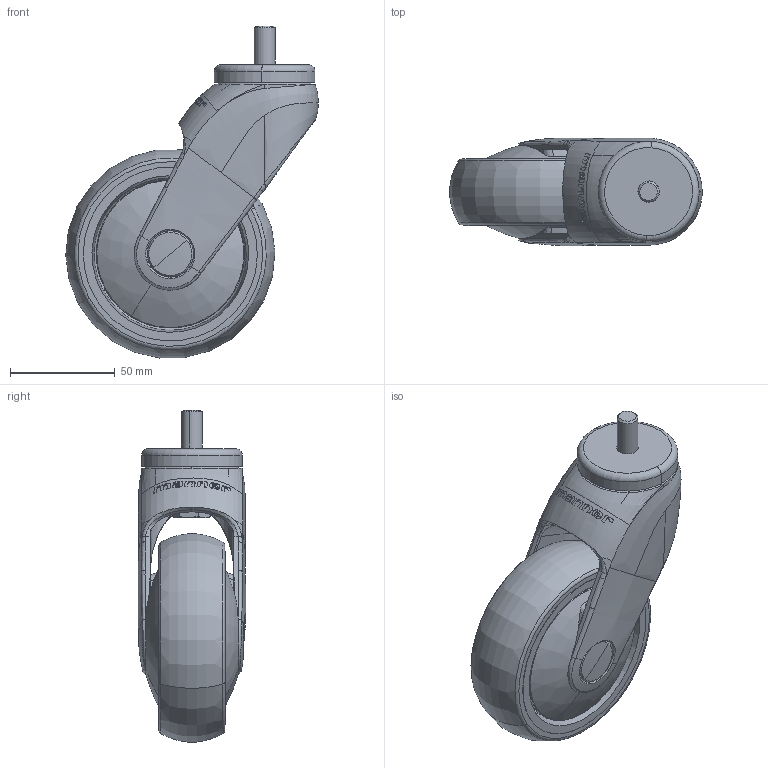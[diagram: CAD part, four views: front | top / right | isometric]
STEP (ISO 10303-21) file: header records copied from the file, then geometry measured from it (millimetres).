
FILE_DESCRIPTION (( 'STEP AP203' ), '1' );
FILE_NAME ('301747.STEP', '2010-07-15T07:49:54', ( ' ' ), ( ' ' ), 'SwSTEP 2.0', 'SolidWorks 2007', '' );
FILE_SCHEMA (( 'CONFIG_CONTROL_DESIGN' ));
Length unit declared in the file: millimetre
Products named in the file (1): 301747
Bounding box: 120.48 x 51.24 x 158.42 mm (x, y, z)
Volume: 231093.6 mm3; surface area: 121665.5 mm2
Topology: 21 solids, 21 shells, 760 faces, 2549 edges, 1839 vertices
Faces by surface type: plane 201, bspline 182, cylinder 178, cone 111, torus 68, sphere 20
Entity records: 72713 total; most frequent: CARTESIAN_POINT 53256, ORIENTED_EDGE 4996, DIRECTION 2895, EDGE_CURVE 2498, VERTEX_POINT 1815, B_SPLINE_CURVE_WITH_KNOTS 1289, AXIS2_PLACEMENT_3D 1223, EDGE_LOOP 819
